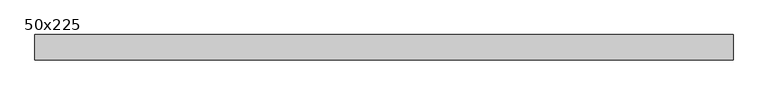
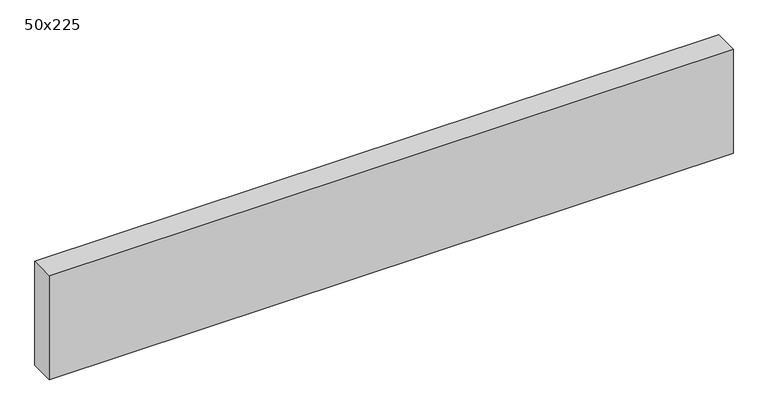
"""IFC4 building model written with IfcOpenShell, lengths in millimetres: beam geometry, Graded Timber : 50x225."""

from ifc_helpers import new_model, si_unit, frame, origin, place, context, project, spatial, polyline, outline, extrude, source, transform, mapped, element, save


def beam_50x225_1fa60654(model_context):
    return source(origin(), model_context, "Body", "SweptSolid", [
        extrude(outline(polyline([(684.5, 25.0), (684.5, -25.0), (-684.5, -25.0), (-684.5, 25.0), (684.5, 25.0)])), frame((0.0, 0.0, -110.0), z_axis=(0.0, 0.0, 1.0), x_axis=(1.0, 0.0, 0.0)), (0.0, 0.0, 1.0), 220.0),
    ])


if __name__ == "__main__":
    model = new_model("IFC4")
    model_context = context("Model", 3, world=origin())
    ifc_project = project(units=[si_unit("LENGTHUNIT", "METRE", prefix="MILLI")], contexts=[model_context])
    site = spatial("IfcSite", under=ifc_project)
    building = spatial("IfcBuilding", under=site)
    placement = place(None, origin())
    beam_50x225_shape = beam_50x225_1fa60654(model_context)
    element("IfcBeam", 1, ObjectType="Graded Timber : 50x225", at=placement, inside=building, context=model_context, shape_type="MappedRepresentation", body=[
        mapped(beam_50x225_shape, transform((0.0, 0.0, 0.0), x_axis=(1.0, 0.0, 0.0), y_axis=(0.0, 1.0, 0.0), z_axis=(0.0, 0.0, 1.0))),
    ])
    save(model, "model.ifc")
